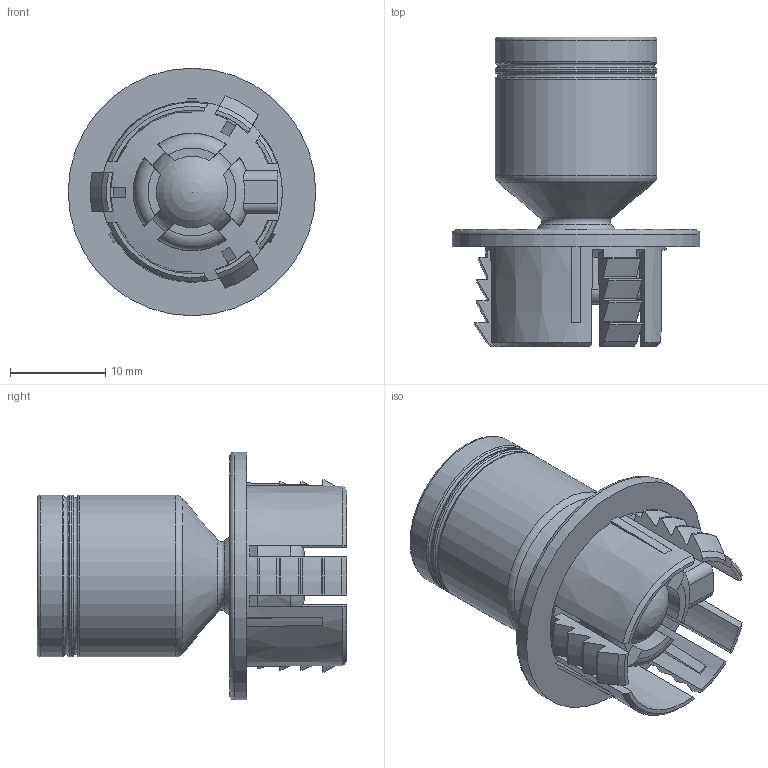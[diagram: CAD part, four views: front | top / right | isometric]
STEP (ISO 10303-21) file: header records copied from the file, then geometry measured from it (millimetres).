
FILE_DESCRIPTION(/* description */ (''),/* implementation_level */ '2;1');
FILE_NAME(/* name */ '5992472_5992473_5992474_spot light.stp',/* time_stamp */ '2019-06-04T07:48:31+02:00',/* author */ (''),/* organization */ (''),/* preprocessor_version */ 'ST-DEVELOPER v16.7',/* originating_system */ 'SIEMENS PLM Software NX 12.0',/* authorisation */ '');
FILE_SCHEMA (('AUTOMOTIVE_DESIGN { 1 0 10303 214 3 1 1 1 }'));
Length unit declared in the file: millimetre
Products named in the file (1): p.sc2594C4D2k484
Bounding box: 26 x 32.5 x 26 mm (x, y, z)
Surface area: 4251.4 mm2 (no closed solid volume)
Topology: 0 solids, 1 shells, 201 faces, 567 edges, 371 vertices
Faces by surface type: plane 93, cone 47, cylinder 39, torus 16, sphere 6
Full cylindrical faces by diameter (mm): 2.8 x1, 9.9 x1, 15 x1, 15.2 x1, 17 x3, 26 x1
Entity records: 6578 total; most frequent: CARTESIAN_POINT 1540, DIRECTION 1067, ORIENTED_EDGE 1040, EDGE_CURVE 520, AXIS2_PLACEMENT_3D 433, VERTEX_POINT 353, EDGE_LOOP 233, CIRCLE 231
